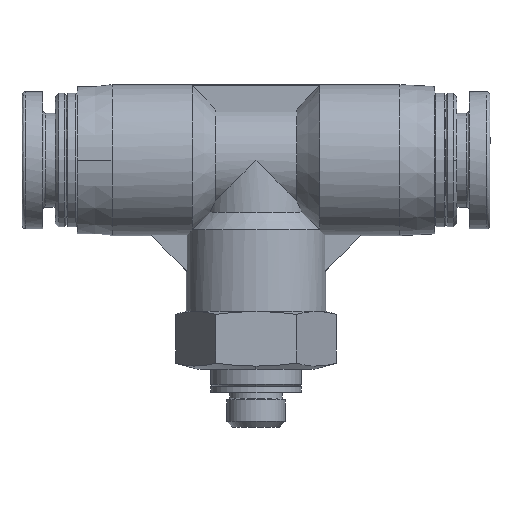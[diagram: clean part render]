
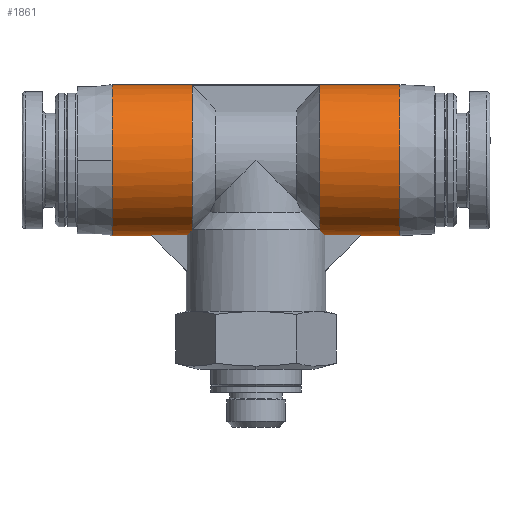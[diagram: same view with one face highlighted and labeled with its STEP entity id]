
A CAD part, front view. The second image highlights one B-rep face of the part: STEP entity #1861.
In plain terms, the highlighted cylindrical face has radius 6.5 mm (diameter 13 mm), a partial arc.
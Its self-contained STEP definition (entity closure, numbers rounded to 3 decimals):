
#24 = VERTEX_POINT ( 'NONE', #1424 ) ;
#28 = EDGE_CURVE ( 'NONE', #24, #3011, #1986, .T. ) ;
#84 = EDGE_CURVE ( 'NONE', #2705, #273, #1009, .T. ) ;
#153 = EDGE_CURVE ( 'NONE', #1053, #373, #1848, .T. ) ;
#177 = DIRECTION ( 'NONE',  ( 0., 0., -1. ) ) ;
#192 = EDGE_CURVE ( 'NONE', #1053, #273, #3794, .T. ) ;
#202 = VERTEX_POINT ( 'NONE', #2958 ) ;
#206 = DIRECTION ( 'NONE',  ( -1., 0., 0. ) ) ;
#225 = EDGE_CURVE ( 'NONE', #2705, #1686, #3705, .T. ) ;
#248 = EDGE_CURVE ( 'NONE', #1686, #1820, #2305, .T. ) ;
#250 = VECTOR ( 'NONE', #3351, 1000. ) ;
#256 = EDGE_CURVE ( 'NONE', #1820, #3011, #1518, .T. ) ;
#266 = EDGE_CURVE ( 'NONE', #24, #3282, #2883, .T. ) ;
#273 = VERTEX_POINT ( 'NONE', #1320 ) ;
#277 = EDGE_CURVE ( 'NONE', #3317, #1567, #681, .T. ) ;
#283 = EDGE_CURVE ( 'NONE', #1920, #2790, #1435, .T. ) ;
#285 = DIRECTION ( 'NONE',  ( 0., 0., -1. ) ) ;
#288 = CARTESIAN_POINT ( 'NONE',  ( -9., 0., 16.5 ) ) ;
#338 = EDGE_CURVE ( 'NONE', #3387, #3317, #3528, .T. ) ;
#373 = VERTEX_POINT ( 'NONE', #2427 ) ;
#404 = CARTESIAN_POINT ( 'NONE',  ( 12.4, 0., 23. ) ) ;
#420 = DIRECTION ( 'NONE',  ( 1., 0., 0. ) ) ;
#454 = CARTESIAN_POINT ( 'NONE',  ( -9.077, -1., 16.577 ) ) ;
#459 = EDGE_CURVE ( 'NONE', #3387, #2790, #2055, .T. ) ;
#509 = ORIENTED_EDGE ( 'NONE', *, *, #28, .F. ) ;
#564 = DIRECTION ( 'NONE',  ( 1., 0., 0. ) ) ;
#585 = CARTESIAN_POINT ( 'NONE',  ( 12.4, 0., 29.5 ) ) ;
#590 = CARTESIAN_POINT ( 'NONE',  ( -12.4, 0., 23. ) ) ;
#601 = DIRECTION ( 'NONE',  ( 0., 0., -1. ) ) ;
#645 = EDGE_LOOP ( 'NONE', ( #1183, #1232, #2519, #882, #2861, #3281, #752, #1102, #3394, #2909, #509, #2536, #3483, #1879, #3678 ) ) ;
#662 = DIRECTION ( 'NONE',  ( 0., 0., -1. ) ) ;
#678 = CARTESIAN_POINT ( 'NONE',  ( -12.4, 0., 23. ) ) ;
#681 = CIRCLE ( 'NONE', #3442, 6.5 ) ;
#709 = CARTESIAN_POINT ( 'NONE',  ( -9.077, -1., 16.577 ) ) ;
#715 = DIRECTION ( 'NONE',  ( 1., 0., 0. ) ) ;
#723 = CARTESIAN_POINT ( 'NONE',  ( -12.4, 0., 23. ) ) ;
#752 = ORIENTED_EDGE ( 'NONE', *, *, #84, .F. ) ;
#780 = VECTOR ( 'NONE', #2490, 1000. ) ;
#782 = CARTESIAN_POINT ( 'NONE',  ( -12.4, -6.5, 23. ) ) ;
#806 = CYLINDRICAL_SURFACE ( 'NONE', #3238, 6.5 ) ;
#876 = AXIS2_PLACEMENT_3D ( 'NONE', #678, #420, #285 ) ;
#882 = ORIENTED_EDGE ( 'NONE', *, *, #2656, .T. ) ;
#891 = CARTESIAN_POINT ( 'NONE',  ( 9., 0., 16.5 ) ) ;
#949 = CARTESIAN_POINT ( 'NONE',  ( 9., -0.335, 16.5 ) ) ;
#951 = CARTESIAN_POINT ( 'NONE',  ( -12.4, 0., 16.5 ) ) ;
#967 = DIRECTION ( 'NONE',  ( 1., 0., 0. ) ) ;
#989 = AXIS2_PLACEMENT_3D ( 'NONE', #1155, #1151, #1116 ) ;
#1009 = B_SPLINE_CURVE_WITH_KNOTS ( 'NONE', 3,
 ( #2248, #2052, #3338, #3241 ),
 .UNSPECIFIED., .F., .F.,
 ( 4, 4 ),
 ( 0., 0.002 ),
 .UNSPECIFIED. ) ;
#1013 = DIRECTION ( 'NONE',  ( 1., 0., 0. ) ) ;
#1053 = VERTEX_POINT ( 'NONE', #454 ) ;
#1063 = CARTESIAN_POINT ( 'NONE',  ( -5.5, -1., 29.423 ) ) ;
#1102 = ORIENTED_EDGE ( 'NONE', *, *, #225, .T. ) ;
#1116 = DIRECTION ( 'NONE',  ( 0., 0., -1. ) ) ;
#1143 = EDGE_CURVE ( 'NONE', #202, #3282, #1282, .T. ) ;
#1151 = DIRECTION ( 'NONE',  ( 1., 0., 0. ) ) ;
#1155 = CARTESIAN_POINT ( 'NONE',  ( 5.5, 0., 23. ) ) ;
#1175 = CARTESIAN_POINT ( 'NONE',  ( 9.026, -0.669, 16.526 ) ) ;
#1183 = ORIENTED_EDGE ( 'NONE', *, *, #459, .F. ) ;
#1186 = CARTESIAN_POINT ( 'NONE',  ( 9.077, -1., 16.577 ) ) ;
#1232 = ORIENTED_EDGE ( 'NONE', *, *, #338, .T. ) ;
#1282 =( BOUNDED_CURVE ( )  B_SPLINE_CURVE ( 3, ( #891, #949, #1175, #1186 ),
 .UNSPECIFIED., .F., .T. ) 
 B_SPLINE_CURVE_WITH_KNOTS ( ( 4, 4 ),
 ( 3.142, 3.296 ),
 .UNSPECIFIED. ) 
 CURVE ( )  GEOMETRIC_REPRESENTATION_ITEM ( )  RATIONAL_B_SPLINE_CURVE ( ( 1., 0.998, 0.998, 1. ) ) 
 REPRESENTATION_ITEM ( '' )  );
#1320 = CARTESIAN_POINT ( 'NONE',  ( -5.916, -1., 16.577 ) ) ;
#1334 = CARTESIAN_POINT ( 'NONE',  ( 5.916, -1., 16.577 ) ) ;
#1342 = CARTESIAN_POINT ( 'NONE',  ( -9.026, -0.669, 16.526 ) ) ;
#1379 = CARTESIAN_POINT ( 'NONE',  ( -12.4, 0., 16.5 ) ) ;
#1389 = AXIS2_PLACEMENT_3D ( 'NONE', #1694, #1598, #1543 ) ;
#1424 = CARTESIAN_POINT ( 'NONE',  ( 5.916, -1., 16.577 ) ) ;
#1430 = CARTESIAN_POINT ( 'NONE',  ( -12.4, -1., 16.577 ) ) ;
#1435 = CIRCLE ( 'NONE', #3256, 6.5 ) ;
#1477 = CARTESIAN_POINT ( 'NONE',  ( 5.832, -1.496, 16.655 ) ) ;
#1482 = CARTESIAN_POINT ( 'NONE',  ( -9., -0.335, 16.5 ) ) ;
#1518 = CIRCLE ( 'NONE', #989, 6.5 ) ;
#1543 = DIRECTION ( 'NONE',  ( 0., 0., -1. ) ) ;
#1567 = VERTEX_POINT ( 'NONE', #1379 ) ;
#1598 = DIRECTION ( 'NONE',  ( -1., 0., 0. ) ) ;
#1605 = CARTESIAN_POINT ( 'NONE',  ( 12.4, 0., 16.5 ) ) ;
#1686 = VERTEX_POINT ( 'NONE', #1063 ) ;
#1694 = CARTESIAN_POINT ( 'NONE',  ( -5.5, 0., 23. ) ) ;
#1820 = VERTEX_POINT ( 'NONE', #2355 ) ;
#1848 =( BOUNDED_CURVE ( )  B_SPLINE_CURVE ( 3, ( #709, #1342, #1482, #288 ),
 .UNSPECIFIED., .F., .T. ) 
 B_SPLINE_CURVE_WITH_KNOTS ( ( 4, 4 ),
 ( 6.129, 6.283 ),
 .UNSPECIFIED. ) 
 CURVE ( )  GEOMETRIC_REPRESENTATION_ITEM ( )  RATIONAL_B_SPLINE_CURVE ( ( 1., 0.998, 0.998, 1. ) ) 
 REPRESENTATION_ITEM ( '' )  );
#1861 = ADVANCED_FACE ( '60', ( #3818 ), #806, .T. ) ;
#1879 = ORIENTED_EDGE ( 'NONE', *, *, #2804, .T. ) ;
#1920 = VERTEX_POINT ( 'NONE', #1605 ) ;
#1923 = CARTESIAN_POINT ( 'NONE',  ( -5.5, -2.398, 16.958 ) ) ;
#1973 = LINE ( 'NONE', #951, #2070 ) ;
#1986 = B_SPLINE_CURVE_WITH_KNOTS ( 'NONE', 3,
 ( #1334, #1477, #2859, #3800 ),
 .UNSPECIFIED., .F., .F.,
 ( 4, 4 ),
 ( 0., 0.002 ),
 .UNSPECIFIED. ) ;
#2052 = CARTESIAN_POINT ( 'NONE',  ( -5.691, -1.96, 16.785 ) ) ;
#2055 = LINE ( 'NONE', #3125, #250 ) ;
#2070 = VECTOR ( 'NONE', #967, 1000. ) ;
#2217 = VECTOR ( 'NONE', #1013, 1000. ) ;
#2228 = VECTOR ( 'NONE', #3807, 1000. ) ;
#2248 = CARTESIAN_POINT ( 'NONE',  ( -5.5, -2.398, 16.958 ) ) ;
#2305 = LINE ( 'NONE', #3503, #2381 ) ;
#2355 = CARTESIAN_POINT ( 'NONE',  ( 5.5, -1., 29.423 ) ) ;
#2381 = VECTOR ( 'NONE', #3697, 1000. ) ;
#2427 = CARTESIAN_POINT ( 'NONE',  ( -9., 0., 16.5 ) ) ;
#2490 = DIRECTION ( 'NONE',  ( 1., 0., 0. ) ) ;
#2519 = ORIENTED_EDGE ( 'NONE', *, *, #277, .T. ) ;
#2536 = ORIENTED_EDGE ( 'NONE', *, *, #266, .T. ) ;
#2656 = EDGE_CURVE ( 'NONE', #1567, #373, #3633, .T. ) ;
#2705 = VERTEX_POINT ( 'NONE', #1923 ) ;
#2790 = VERTEX_POINT ( 'NONE', #585 ) ;
#2804 = EDGE_CURVE ( 'NONE', #202, #1920, #1973, .T. ) ;
#2859 = CARTESIAN_POINT ( 'NONE',  ( 5.691, -1.96, 16.785 ) ) ;
#2861 = ORIENTED_EDGE ( 'NONE', *, *, #153, .F. ) ;
#2883 = LINE ( 'NONE', #1430, #2217 ) ;
#2909 = ORIENTED_EDGE ( 'NONE', *, *, #256, .T. ) ;
#2958 = CARTESIAN_POINT ( 'NONE',  ( 9., 0., 16.5 ) ) ;
#3002 = CARTESIAN_POINT ( 'NONE',  ( -12.4, 0., 29.5 ) ) ;
#3011 = VERTEX_POINT ( 'NONE', #3323 ) ;
#3125 = CARTESIAN_POINT ( 'NONE',  ( -12.4, 0., 29.5 ) ) ;
#3238 = AXIS2_PLACEMENT_3D ( 'NONE', #590, #564, #601 ) ;
#3241 = CARTESIAN_POINT ( 'NONE',  ( -5.916, -1., 16.577 ) ) ;
#3256 = AXIS2_PLACEMENT_3D ( 'NONE', #404, #206, #177 ) ;
#3281 = ORIENTED_EDGE ( 'NONE', *, *, #192, .T. ) ;
#3282 = VERTEX_POINT ( 'NONE', #3524 ) ;
#3317 = VERTEX_POINT ( 'NONE', #782 ) ;
#3323 = CARTESIAN_POINT ( 'NONE',  ( 5.5, -2.398, 16.958 ) ) ;
#3338 = CARTESIAN_POINT ( 'NONE',  ( -5.832, -1.496, 16.655 ) ) ;
#3351 = DIRECTION ( 'NONE',  ( 1., 0., 0. ) ) ;
#3387 = VERTEX_POINT ( 'NONE', #3002 ) ;
#3394 = ORIENTED_EDGE ( 'NONE', *, *, #248, .T. ) ;
#3442 = AXIS2_PLACEMENT_3D ( 'NONE', #723, #715, #662 ) ;
#3483 = ORIENTED_EDGE ( 'NONE', *, *, #1143, .F. ) ;
#3503 = CARTESIAN_POINT ( 'NONE',  ( -12.4, -1., 29.423 ) ) ;
#3524 = CARTESIAN_POINT ( 'NONE',  ( 9.077, -1., 16.577 ) ) ;
#3528 = CIRCLE ( 'NONE', #876, 6.5 ) ;
#3633 = LINE ( 'NONE', #3728, #2228 ) ;
#3678 = ORIENTED_EDGE ( 'NONE', *, *, #283, .T. ) ;
#3697 = DIRECTION ( 'NONE',  ( 1., 0., 0. ) ) ;
#3705 = CIRCLE ( 'NONE', #1389, 6.5 ) ;
#3728 = CARTESIAN_POINT ( 'NONE',  ( -12.4, 0., 16.5 ) ) ;
#3775 = CARTESIAN_POINT ( 'NONE',  ( -12.4, -1., 16.577 ) ) ;
#3794 = LINE ( 'NONE', #3775, #780 ) ;
#3800 = CARTESIAN_POINT ( 'NONE',  ( 5.5, -2.398, 16.958 ) ) ;
#3807 = DIRECTION ( 'NONE',  ( 1., 0., 0. ) ) ;
#3818 = FACE_OUTER_BOUND ( 'NONE', #645, .T. ) ;
